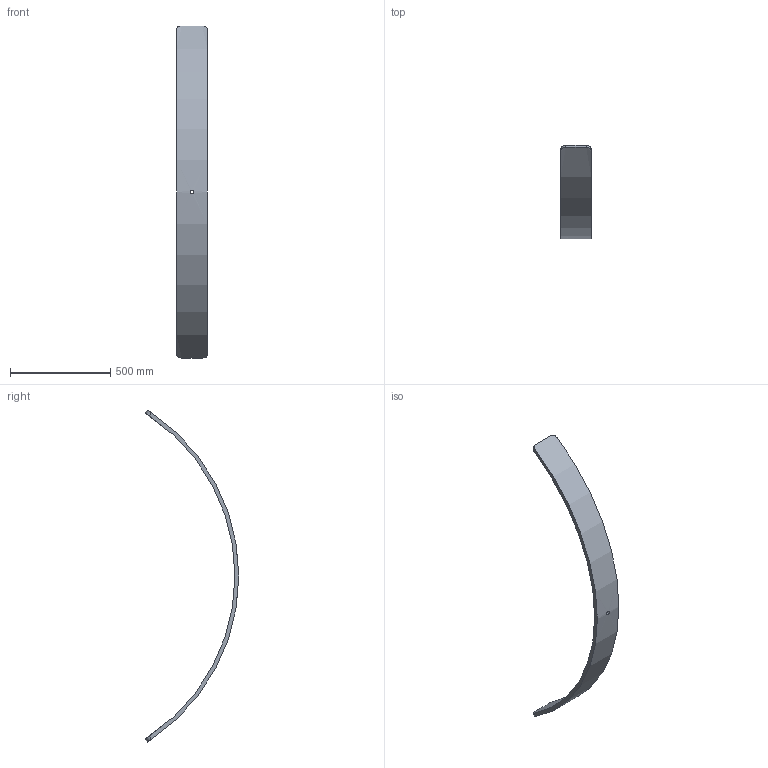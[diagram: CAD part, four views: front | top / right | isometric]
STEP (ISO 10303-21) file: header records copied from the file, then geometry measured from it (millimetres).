
FILE_DESCRIPTION (( 'STEP AP214' ), '1' );
FILE_NAME ('AR PCS 15.STEP', '2025-01-09T19:43:25', ( '' ), ( '' ), 'SwSTEP 2.0', 'SolidWorks 2024', '' );
FILE_SCHEMA (( 'AUTOMOTIVE_DESIGN' ));
Length unit declared in the file: inch
Products named in the file (1): AR PCS 15
Bounding box: 152.4 x 467.45 x 1659.09 mm (x, y, z)
Volume: 5667878.3 mm3; surface area: 675786.4 mm2
Topology: 1 solids, 1 shells, 11 faces, 27 edges, 18 vertices
Faces by surface type: cylinder 7, plane 4
Full cylindrical faces by diameter (mm): 19.431 x1
Entity records: 745 total; most frequent: CARTESIAN_POINT 470, ORIENTED_EDGE 52, DIRECTION 44, EDGE_CURVE 26, VERTEX_POINT 18, AXIS2_PLACEMENT_3D 16, EDGE_LOOP 14, VECTOR 12
